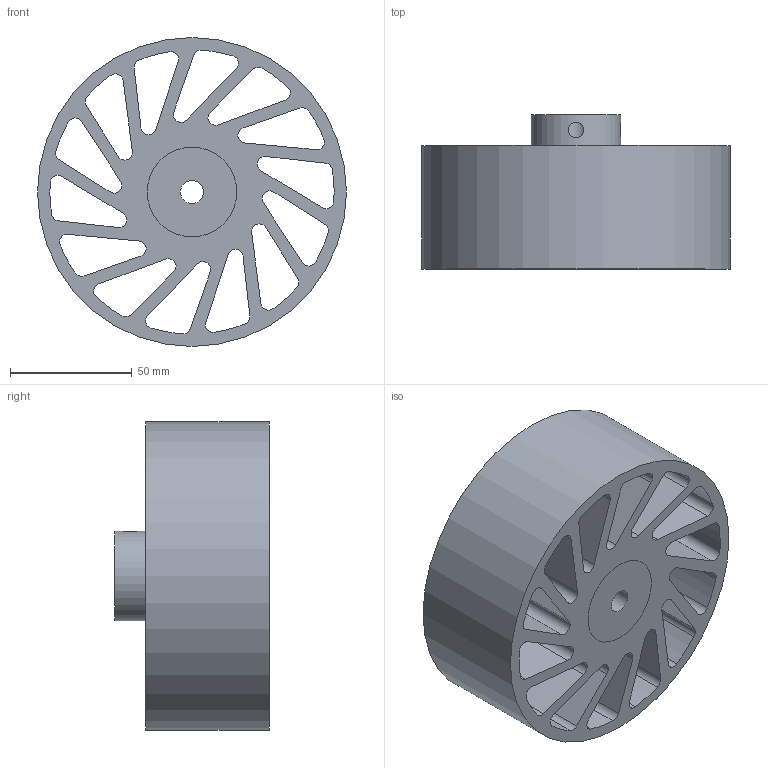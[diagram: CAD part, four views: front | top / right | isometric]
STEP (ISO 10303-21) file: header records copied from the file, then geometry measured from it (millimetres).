
FILE_DESCRIPTION(/* description */ (''),/* implementation_level */ '2;1');
FILE_NAME(/* name */ 'NCW-490-XXX-YYY.stp',/* time_stamp */ '2023-02-02T15:22:41-06:00',/* author */ ('AG'),/* organization */ ('Meridian Laboratory'),/* preprocessor_version */ 'ST-DEVELOPER v18.1',/* originating_system */ 'Autodesk Inventor 2022',/* authorisation */ '');
FILE_SCHEMA (('AUTOMOTIVE_DESIGN { 1 0 10303 214 3 1 1 }'));
Length unit declared in the file: inch
Products named in the file (1): NCW-440
Bounding box: 127 x 63.5 x 127 mm (x, y, z)
Volume: 368949.8 mm3; surface area: 111392.8 mm2
Topology: 2 solids, 2 shells, 94 faces, 276 edges, 186 vertices
Faces by surface type: cylinder 62, plane 32
Full cylindrical faces by diameter (mm): 6.35 x2, 9.538 x1, 36.83 x2, 127 x1
Entity records: 3530 total; most frequent: CARTESIAN_POINT 697, DIRECTION 576, ORIENTED_EDGE 552, EDGE_CURVE 276, AXIS2_PLACEMENT_3D 215, VERTEX_POINT 186, LINE 146, VECTOR 146
